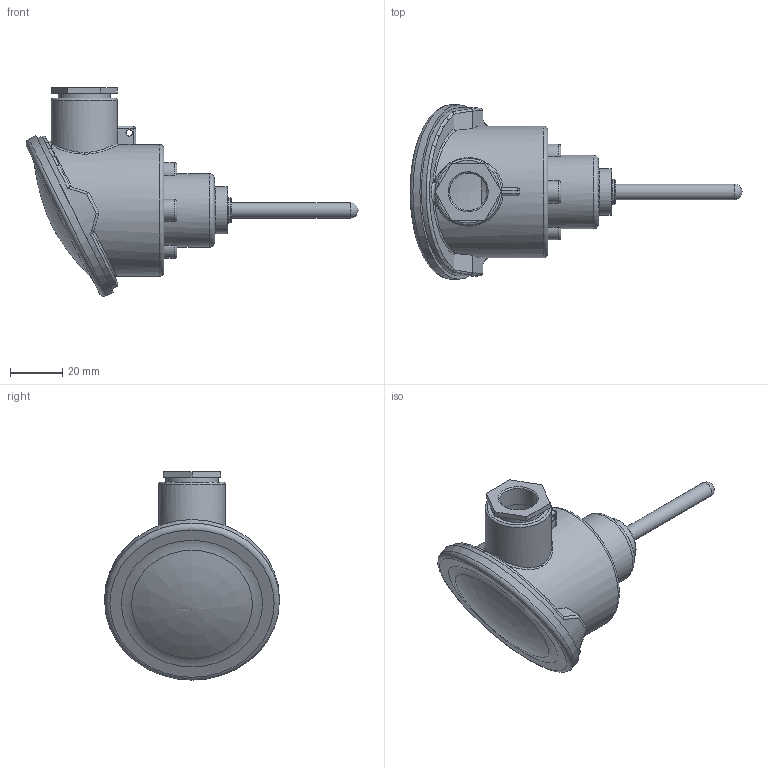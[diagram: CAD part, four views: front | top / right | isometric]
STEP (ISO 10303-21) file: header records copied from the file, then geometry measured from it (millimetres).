
FILE_DESCRIPTION(/* description */ ('Unknown'),/* implementation_level */ '2;1');
FILE_NAME(/* name */ 'TCR6-1720.4001.1010.0510.0050',/* time_stamp */ '2019-04-05T14:36:23+02:00',/* author */ ('Unknown'),/* organization */ ('Unknown'),/* preprocessor_version */ 'ST-DEVELOPER v16.7',/* originating_system */ 'DEX',/* authorisation */ $);
FILE_SCHEMA (('AUTOMOTIVE_DESIGN {1 0 10303 214 3 1 1}'));
Length unit declared in the file: millimetre
Products named in the file (1): Part1
Bounding box: 127.35 x 67 x 79.89 mm (x, y, z)
Volume: 50186 mm3; surface area: 32560.5 mm2
Topology: 2 solids, 2 shells, 128 faces, 315 edges, 204 vertices
Faces by surface type: plane 47, cylinder 32, torus 18, bspline 18, cone 8, sphere 5
Full cylindrical faces by diameter (mm): 2.5 x1, 4 x1, 6 x2, 8 x1, 8.1 x1, 9 x1, 9.6 x1, 11.2 x1, 13.1 x1, 13.157 x1, 14.376 x1, 15.5 x1, 18 x1, 20 x1, 21 x1, 25.5 x1, 28.2 x1, 47 x1, 50 x1, 50.5 x1, 64.5 x1, 67 x1
Entity records: 5680 total; most frequent: CARTESIAN_POINT 2213, DIRECTION 506, ORIENTED_EDGE 480, EDGE_CURVE 240, AXIS2_PLACEMENT_3D 228, FACE_BOUND 193, EDGE_LOOP 190, VERTEX_POINT 177
